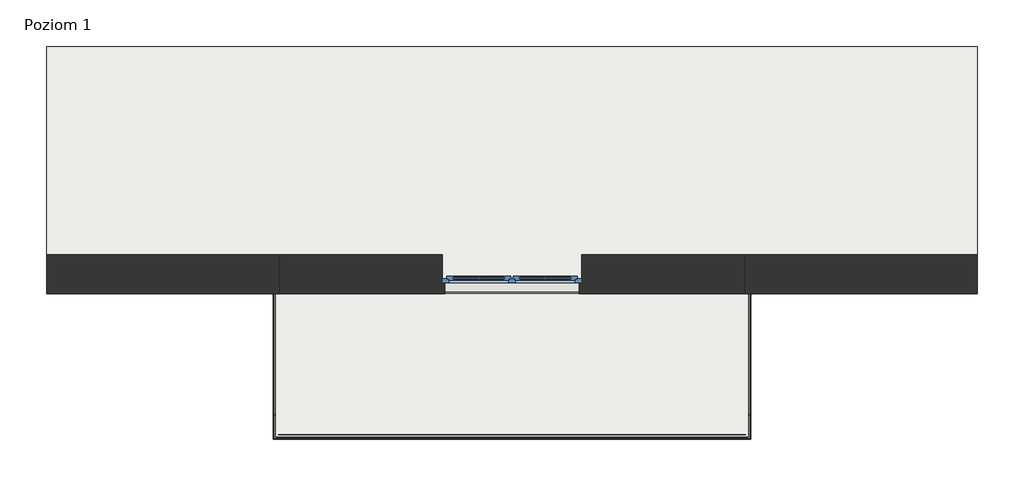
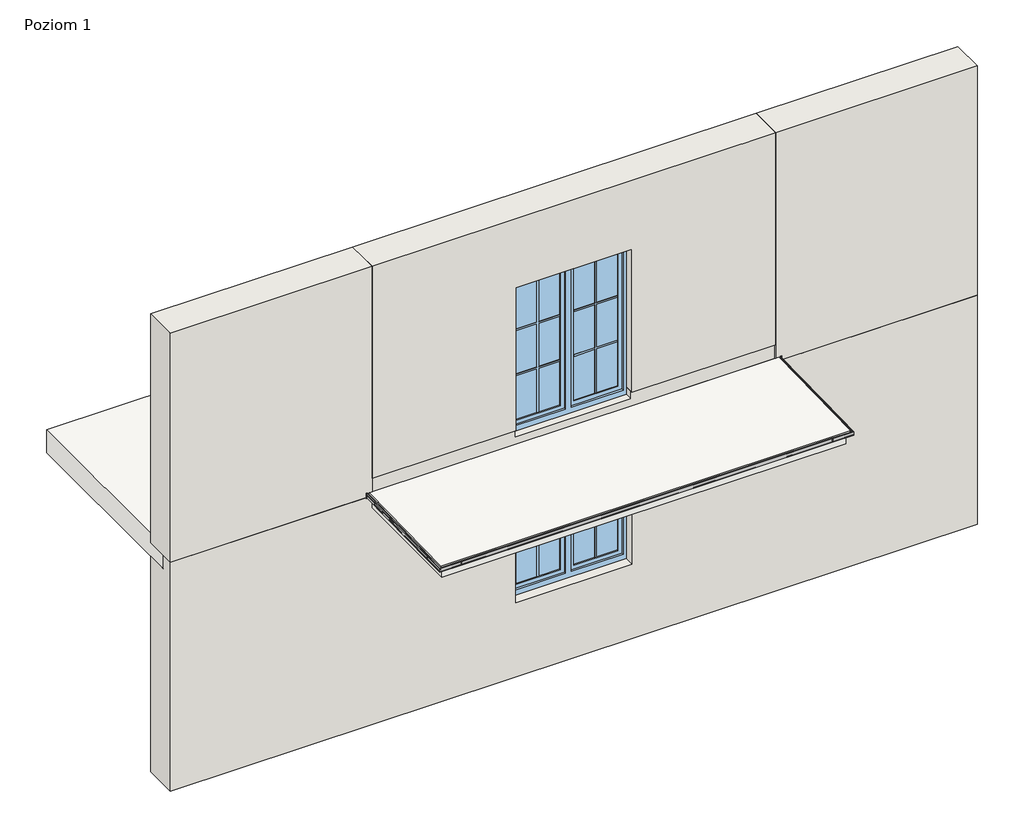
# One storey, part 1 of 4: 5 proxies, 5 walls, 3 slabs, 2 windows.
"""IFC4 building model written with IfcOpenShell, lengths in millimetres."""

from ifc_helpers import new_model, si_unit, frame, origin, place, context, project, spatial, polyline, outline, extrude, faceted_brep, transform, mapped, element, save
from components import generic_models_3c172368, generic_models_18d6be8e, w20r_7c1a13f7, w20r_ccec4204, window_150x150_51b7f79a, window_150x200_12b14935

model = new_model("IFC4")

# Units and contexts
model_context = context("Model", 3, world=origin())
ifc_project = project(units=[si_unit("LENGTHUNIT", "METRE", prefix="MILLI")], contexts=[model_context])

# Site, building, storey
site = spatial("IfcSite", under=ifc_project)
building = spatial("IfcBuilding", under=site)
storey = spatial("IfcBuildingStorey", under=building, Name="Poziom 1", Elevation=0.0)

# Proxies
placement = place(None, origin())
generic_models_shape = generic_models_3c172368(model_context)
element("IfcBuildingElementProxy", 1, Name="Odbojniki - OPW20R : Odbojniki - OPW20R", ObjectType="Odbojniki - OPW20R : Odbojniki - OPW20R", at=placement, inside=storey, context=model_context, shape_type="MappedRepresentation", body=[
    mapped(generic_models_shape, transform((-108866.8297699, 29732.9140087, -94.4663045), x_axis=(0.0, -0.9997932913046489, -0.020331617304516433), y_axis=(1.0, 0.0, 0.0), z_axis=(0.0, -0.020331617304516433, 0.999793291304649))),
])
generic_models_2_shape = generic_models_18d6be8e(model_context)
element("IfcBuildingElementProxy", 2, Name="Odbojniki - OPW20R : Odbojniki - OPW20R", ObjectType="Odbojniki - OPW20R : Odbojniki - OPW20R", at=placement, inside=storey, context=model_context, shape_type="MappedRepresentation", body=[
    mapped(generic_models_2_shape, transform((-103866.8297699, 29732.9140087, -94.4663045), x_axis=(0.0, -0.9997932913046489, -0.02033161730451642), y_axis=(1.0, 0.0, 0.0), z_axis=(0.0, -0.020331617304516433, 0.999793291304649))),
])
w20r_shape = w20r_7c1a13f7(model_context)
element("IfcBuildingElementProxy", 3, Name="W20R Profil okapowy prosty : W20R", ObjectType="W20R Profil okapowy prosty : W20R", at=placement, inside=storey, context=model_context, shape_type="MappedRepresentation", body=[
    mapped(w20r_shape, transform((-108866.8297699, 28433.4935947, -120.9336765), x_axis=(0.0, 0.9997932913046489, 0.020331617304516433), y_axis=(-1.0, 0.0, 0.0), z_axis=(0.0, -0.020331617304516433, 0.999793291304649))),
])
element("IfcBuildingElementProxy", 4, Name="W20R Profil okapowy prosty : W20R", ObjectType="W20R Profil okapowy prosty : W20R", at=placement, inside=storey, context=model_context, shape_type="MappedRepresentation", body=[
    mapped(w20r_shape, transform((-103866.8297699, 29732.9148744, -94.5088781), x_axis=(0.0, -0.9997932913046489, -0.02033161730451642), y_axis=(1.0, 0.0, 0.0), z_axis=(0.0, -0.020331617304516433, 0.999793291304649))),
])
w20r_2_shape = w20r_ccec4204(model_context)
element("IfcBuildingElementProxy", 5, Name="W20R Profil okapowy prosty : W20R", ObjectType="W20R Profil okapowy prosty : W20R", at=placement, inside=storey, context=model_context, shape_type="MappedRepresentation", body=[
    mapped(w20r_2_shape, transform((-103866.8297699, 28233.5349364, -125.0), x_axis=(-1.0, 0.0, 0.0), y_axis=(0.0, -0.999793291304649, -0.020331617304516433), z_axis=(0.0, -0.020331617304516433, 0.999793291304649))),
])

# Slabs
element("IfcSlab", 6, ObjectType="Balkon - wykończenie - posadzka ceramiczna", at=placement, inside=storey, context=model_context, shape_type="SweptSolid", body=[
    extrude(outline(polyline([(28196.5349364, -125.7), (28196.5349364, -109.7), (29733.5349364, -76.3), (29733.5349364, -92.3), (28196.5349364, -125.7)])), frame((-108903.8297699, 0.0, 0.0), z_axis=(1.0, 0.0, 0.0), x_axis=(0.0, 1.0, 0.0)), (0.0, 0.0, 1.0), 5074.0),
])
element("IfcSlab", 7, ObjectType="Balkon - konstrukcja", at=placement, inside=storey, context=model_context, shape_type="Brep", body=[
    faceted_brep([(-108866.8297699, 28233.5349364, -285.0), (-108866.8297699, 29733.5349364, -285.0), (-108866.8297699, 29841.5349364, -285.0), (-103866.8297699, 29841.5349364, -285.0), (-103866.8297699, 29733.5349364, -285.0), (-103866.8297699, 28233.5349364, -285.0), (-108866.8297699, 28233.5349364, -125.0), (-108866.8297699, 29755.5349364, -94.0488806), (-108866.8297699, 29841.5349364, -92.3), (-108866.8297699, 29841.5349364, -125.0), (-103866.8297699, 29841.5349364, -92.3), (-103866.8297699, 29841.5349364, -125.0), (-103866.8297699, 28233.5349364, -125.0), (-103866.8297699, 29755.5349364, -94.0488806)], [[[0, 1, 2, 3, 4, 5]], [[2, 1, 0, 6, 7, 8, 9]], [[3, 2, 9, 8, 10, 11]], [[0, 5, 12, 6]], [[5, 4, 3, 11, 10, 13, 12]], [[12, 13, 10, 8, 7, 6]]]),
])
element("IfcSlab", 8, ObjectType="Strop", at=placement, inside=storey, context=model_context, shape_type="Brep", body=[
    faceted_brep([(-101366.8297699, 29888.5349364, -300.0), (-111366.8297699, 29888.5349364, -300.0), (-111366.8297699, 30153.5349364, -300.0), (-111366.8297699, 32388.5349364, -300.0), (-101366.8297699, 32388.5349364, -300.0), (-101366.8297699, 30153.5349364, -300.0), (-101366.8297699, 29888.5349364, 0.0), (-101366.8297699, 32388.5349364, 0.0), (-111366.8297699, 32388.5349364, 0.0), (-111366.8297699, 29888.5349364, 0.0), (-108866.8297699, 29888.5349364, 0.0), (-107116.8297699, 29888.5349364, 0.0), (-105616.8297699, 29888.5349364, 0.0), (-103866.8297699, 29888.5349364, 0.0), (-101366.8297699, 29888.5349364, -125.0), (-111366.8297699, 29888.5349364, -125.0)], [[[0, 1, 2, 3, 4, 5]], [[6, 7, 8, 9, 10, 11, 12, 13]], [[1, 0, 14, 6, 13, 12, 11, 10, 9, 15]], [[3, 2, 1, 15, 9, 8]], [[4, 3, 8, 7]], [[0, 5, 4, 7, 6, 14]]]),
])

# Walls
element("IfcWall", 9, ObjectType="Porotherm P+W 25 + o15 + t", at=placement, inside=storey, context=model_context, shape_type="Brep", body=[
    faceted_brep([(-111366.8297699, 29733.5349364, -3125.0), (-101366.8297699, 29733.5349364, -3125.0), (-101366.8297699, 29733.5349364, -125.0), (-103866.8297699, 29733.5349364, -125.0), (-103866.8297699, 29733.5349364, -285.0), (-108866.8297699, 29733.5349364, -285.0), (-108866.8297699, 29733.5349364, -125.0), (-111366.8297699, 29733.5349364, -125.0), (-105646.8297699, 29733.5349364, -680.0), (-105646.8297699, 29733.5349364, -2150.0), (-107086.8297699, 29733.5349364, -2150.0), (-107086.8297699, 29733.5349364, -680.0), (-101366.8297699, 30153.5349364, -3125.0), (-111366.8297699, 30153.5349364, -3125.0), (-111366.8297699, 30153.5349364, -300.0), (-101366.8297699, 30153.5349364, -300.0), (-105616.8297699, 30153.5349364, -2150.0), (-105616.8297699, 30153.5349364, -650.0), (-107116.8297699, 30153.5349364, -650.0), (-107116.8297699, 30153.5349364, -2150.0), (-101366.8297699, 29888.5349364, -300.0), (-101366.8297699, 29888.5349364, -125.0), (-103866.8297699, 29888.5349364, -125.0), (-108866.8297699, 29888.5349364, -125.0), (-111366.8297699, 29888.5349364, -125.0), (-108866.8297699, 29841.5349364, -125.0), (-103866.8297699, 29841.5349364, -125.0), (-111366.8297699, 29888.5349364, -300.0), (-105616.8297699, 29853.5349364, -650.0), (-105616.8297699, 29853.5349364, -2150.0), (-105646.8297699, 29853.5349364, -680.0), (-105646.8297699, 29853.5349364, -2150.0), (-103866.8297699, 29841.5349364, -285.0), (-108866.8297699, 29841.5349364, -285.0), (-107116.8297699, 29853.5349364, -650.0), (-107116.8297699, 29853.5349364, -2150.0), (-107086.8297699, 29853.5349364, -2150.0), (-107086.8297699, 29853.5349364, -680.0)], [[[0, 1, 2, 3, 4, 5, 6, 7], [8, 9, 10, 11]], [[12, 13, 14, 15], [16, 17, 18, 19]], [[1, 0, 13, 12]], [[2, 1, 12, 15, 20, 21]], [[2, 21, 22, 23, 24, 7, 6, 25, 26, 3]], [[0, 7, 24, 27, 14, 13]], [[28, 17, 16, 29]], [[8, 30, 31, 9]], [[27, 20, 15, 14]], [[20, 27, 24, 23, 22, 21]], [[32, 33, 5, 4]], [[5, 33, 25, 6]], [[33, 32, 26, 25]], [[32, 4, 3, 26]], [[17, 28, 34, 18]], [[29, 16, 19, 35, 36, 10, 9, 31]], [[34, 28, 29, 31, 30, 37, 36, 35]], [[34, 35, 19, 18]], [[30, 8, 11, 37]], [[10, 36, 37, 11]]]),
])
element("IfcWall", 10, ObjectType="Porotherm P+W 25 + o15 + t", at=placement, inside=storey, context=model_context, shape_type="Brep", body=[
    faceted_brep([(-111366.8297699, 29733.5349364, -125.0), (-108866.8297699, 29733.5349364, -125.0), (-108866.8297699, 29733.5349364, 100.0), (-108866.8297699, 29733.5349364, 2875.0), (-111366.8297699, 29733.5349364, 2875.0), (-111366.8297699, 30153.5349364, -125.0), (-111366.8297699, 30153.5349364, 2875.0), (-108866.8297699, 30153.5349364, 2875.0), (-108866.8297699, 30153.5349364, 100.0), (-108866.8297699, 30153.5349364, 0.0), (-108866.8297699, 30153.5349364, -125.0), (-111366.8297699, 29888.5349364, -125.0), (-108866.8297699, 29888.5349364, -125.0), (-108866.8297699, 29841.5349364, -125.0)], [[[0, 1, 2, 3, 4]], [[5, 6, 7, 8, 9, 10]], [[1, 0, 11, 5, 10, 12, 13]], [[4, 3, 7, 6]], [[0, 4, 6, 5, 11]], [[1, 13, 12, 10, 9, 8, 7, 3, 2]]]),
])
element("IfcWall", 11, ObjectType="Porotherm P+W 25 + o15 + t", at=placement, inside=storey, context=model_context, shape_type="Brep", body=[
    faceted_brep([(-103866.8297699, 29733.5349364, 2875.0), (-103866.8297699, 29733.5349364, 100.0), (-103866.8297699, 29733.5349364, -125.0), (-101366.8297699, 29733.5349364, -125.0), (-101366.8297699, 29733.5349364, 2875.0), (-103866.8297699, 30153.5349364, -125.0), (-103866.8297699, 30153.5349364, 0.0), (-103866.8297699, 30153.5349364, 100.0), (-103866.8297699, 30153.5349364, 2875.0), (-101366.8297699, 30153.5349364, 2875.0), (-101366.8297699, 30153.5349364, -125.0), (-103866.8297699, 29841.5349364, -125.0), (-103866.8297699, 29888.5349364, -125.0), (-101366.8297699, 29888.5349364, -125.0)], [[[0, 1, 2, 3, 4]], [[5, 6, 7, 8, 9, 10]], [[3, 2, 11, 12, 5, 10, 13]], [[4, 3, 13, 10, 9]], [[0, 4, 9, 8]], [[0, 8, 7, 6, 5, 12, 11, 2, 1]]]),
])
element("IfcWall", 12, ObjectType="Porotherm P+W 25 + o12 + pł ceramiczne", at=placement, inside=storey, context=model_context, shape_type="Brep", body=[
    faceted_brep([(-103866.8297699, 29755.5349364, 100.0), (-105646.8297699, 29755.5349364, 100.0), (-105646.8297699, 29755.5349364, 0.0), (-107086.8297699, 29755.5349364, 0.0), (-107086.8297699, 29755.5349364, 100.0), (-108866.8297699, 29755.5349364, 100.0), (-108866.8297699, 29755.5349364, -94.0488806), (-103866.8297699, 29755.5349364, -94.0488806), (-108866.8297699, 30153.5349364, 0.0), (-108866.8297699, 30153.5349364, 100.0), (-107116.8297699, 30153.5349364, 100.0), (-107116.8297699, 30153.5349364, 0.0), (-103866.8297699, 30153.5349364, 100.0), (-103866.8297699, 30153.5349364, 0.0), (-105616.8297699, 30153.5349364, 0.0), (-105616.8297699, 30153.5349364, 100.0), (-108866.8297699, 29888.5349364, -125.0), (-103866.8297699, 29888.5349364, -125.0), (-103866.8297699, 29841.5349364, -125.0), (-108866.8297699, 29841.5349364, -125.0), (-103866.8297699, 29841.5349364, -92.3), (-103866.8297699, 29888.5349364, 0.0), (-105616.8297699, 29853.5349364, 100.0), (-105646.8297699, 29853.5349364, 100.0), (-107086.8297699, 29853.5349364, 100.0), (-107116.8297699, 29853.5349364, 100.0), (-108866.8297699, 29888.5349364, 0.0), (-108866.8297699, 29841.5349364, -92.3), (-107116.8297699, 29888.5349364, 0.0), (-105616.8297699, 29888.5349364, 0.0), (-107116.8297699, 29853.5349364, 0.0), (-107086.8297699, 29853.5349364, 0.0), (-105646.8297699, 29853.5349364, 0.0), (-105616.8297699, 29853.5349364, 0.0)], [[[0, 1, 2, 3, 4, 5, 6, 7]], [[8, 9, 10, 11]], [[12, 13, 14, 15]], [[16, 17, 18, 19]], [[12, 0, 7, 20, 18, 17, 21, 13]], [[0, 12, 15, 22, 23, 1]], [[9, 5, 4, 24, 25, 10]], [[5, 9, 8, 26, 16, 19, 27, 6]], [[8, 11, 28, 26]], [[13, 21, 29, 14]], [[17, 16, 26, 28, 29, 21]], [[20, 27, 19, 18]], [[27, 20, 7, 6]], [[30, 31, 3, 2, 32, 33, 29, 28]], [[31, 30, 25, 24]], [[33, 32, 23, 22]], [[33, 22, 15, 14, 29]], [[25, 30, 28, 11, 10]], [[32, 2, 1, 23]], [[3, 31, 24, 4]]]),
])
element("IfcWall", 13, ObjectType="Porotherm P+W 25 + o15 + t", at=placement, inside=storey, context=model_context, shape_type="Brep", body=[
    faceted_brep([(-103866.8297699, 29733.5349364, 100.0), (-103866.8297699, 29733.5349364, 2875.0), (-108866.8297699, 29733.5349364, 2875.0), (-108866.8297699, 29733.5349364, 100.0), (-107086.8297699, 29733.5349364, 100.0), (-107086.8297699, 29733.5349364, 1970.0), (-105646.8297699, 29733.5349364, 1970.0), (-105646.8297699, 29733.5349364, 100.0), (-103866.8297699, 30153.5349364, 2875.0), (-103866.8297699, 30153.5349364, 100.0), (-105616.8297699, 30153.5349364, 100.0), (-105616.8297699, 30153.5349364, 2000.0), (-107116.8297699, 30153.5349364, 2000.0), (-107116.8297699, 30153.5349364, 100.0), (-108866.8297699, 30153.5349364, 100.0), (-108866.8297699, 30153.5349364, 2875.0), (-108866.8297699, 29755.5349364, 100.0), (-107116.8297699, 29853.5349364, 100.0), (-107086.8297699, 29853.5349364, 100.0), (-107086.8297699, 29755.5349364, 100.0), (-103866.8297699, 29755.5349364, 100.0), (-105646.8297699, 29755.5349364, 100.0), (-105646.8297699, 29853.5349364, 100.0), (-105616.8297699, 29853.5349364, 100.0), (-105616.8297699, 29853.5349364, 2000.0), (-105646.8297699, 29853.5349364, 1970.0), (-107116.8297699, 29853.5349364, 2000.0), (-107086.8297699, 29853.5349364, 1970.0)], [[[0, 1, 2, 3, 4, 5, 6, 7]], [[8, 9, 10, 11, 12, 13, 14, 15]], [[3, 16, 14, 13, 17, 18, 19, 4]], [[9, 20, 0, 7, 21, 22, 23, 10]], [[1, 0, 20, 9, 8]], [[2, 1, 8, 15]], [[3, 2, 15, 14, 16]], [[24, 11, 10, 23]], [[6, 25, 22, 21, 7]], [[26, 12, 11, 24]], [[26, 24, 23, 22, 25, 27, 18, 17]], [[12, 26, 17, 13]], [[27, 25, 6, 5]], [[27, 5, 4, 19, 18]]]),
])

# Windows
window_150x150_shape = window_150x150_51b7f79a(model_context)
element("IfcWindow", 14, ObjectType="OKNO_2X_W_SZ : 150x150", at=placement, inside=storey, context=model_context, shape_type="MappedRepresentation", body=[
    mapped(window_150x150_shape, transform((-106366.8297699, 29943.5349364, -3000.0), x_axis=(-1.0, 0.0, 0.0), y_axis=(0.0, -1.0, 0.0), z_axis=(0.0, 0.0, 1.0))),
])
window_150x200_shape = window_150x200_12b14935(model_context)
element("IfcWindow", 15, ObjectType="OKNO_2X_W_SZ : 150x200", at=placement, inside=storey, context=model_context, shape_type="MappedRepresentation", body=[
    mapped(window_150x200_shape, transform((-106366.8297699, 29943.5349364, -850.0), x_axis=(-1.0, 0.0, 0.0), y_axis=(0.0, -1.0, 0.0), z_axis=(0.0, 0.0, 1.0))),
])

save(model, "model.ifc")
